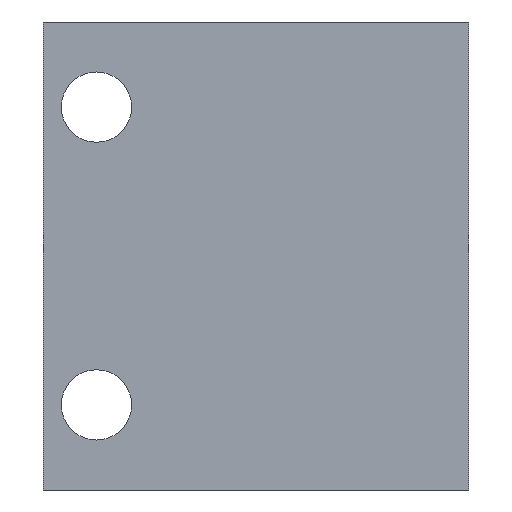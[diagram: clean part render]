
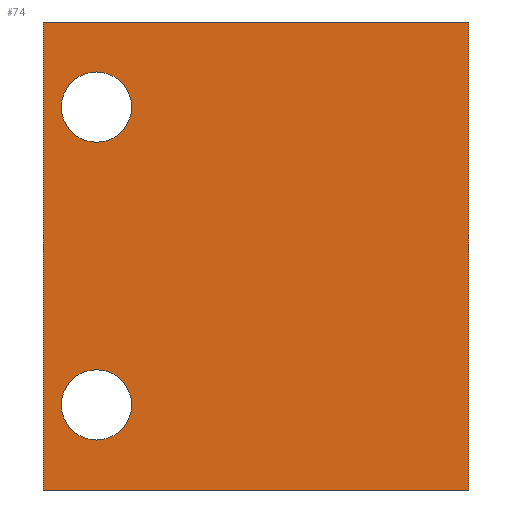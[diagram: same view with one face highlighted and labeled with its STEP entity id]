
A CAD part, left-side view. The second image highlights one B-rep face of the part: STEP entity #74.
In plain terms, the highlighted planar face has unit normal (-1, 0, 0).
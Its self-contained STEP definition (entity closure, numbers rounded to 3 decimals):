
#18 = ORIENTED_EDGE ( 'NONE', *, *, #208, .T. ) ;
#32 = ORIENTED_EDGE ( 'NONE', *, *, #319, .F. ) ;
#46 = EDGE_LOOP ( 'NONE', ( #225, #216 ) ) ;
#68 = EDGE_LOOP ( 'NONE', ( #18, #32, #214, #234 ) ) ;
#71 = EDGE_LOOP ( 'NONE', ( #228, #231 ) ) ;
#74 = ADVANCED_FACE ( 'NONE', ( #474, #222, #477 ), #423, .F. ) ;
#95 = LINE ( 'NONE', #439, #96 ) ;
#96 = VECTOR ( 'NONE', #430, 1000. ) ;
#99 = CIRCLE ( 'NONE', #187, 1.65 ) ;
#101 = CIRCLE ( 'NONE', #211, 1.65 ) ;
#110 = LINE ( 'NONE', #443, #111 ) ;
#111 = VECTOR ( 'NONE', #442, 1000. ) ;
#114 = CIRCLE ( 'NONE', #170, 1.65 ) ;
#116 = CIRCLE ( 'NONE', #203, 1.65 ) ;
#119 = LINE ( 'NONE', #428, #120 ) ;
#120 = VECTOR ( 'NONE', #425, 1000. ) ;
#170 = AXIS2_PLACEMENT_3D ( 'NONE', #463, #406, #454 ) ;
#172 = EDGE_CURVE ( 'NONE', #386, #375, #472, .T. ) ;
#187 = AXIS2_PLACEMENT_3D ( 'NONE', #447, #448, #464 ) ;
#189 = AXIS2_PLACEMENT_3D ( 'NONE', #377, #422, #421 ) ;
#203 = AXIS2_PLACEMENT_3D ( 'NONE', #455, #459, #404 ) ;
#208 = EDGE_CURVE ( 'NONE', #376, #396, #95, .T. ) ;
#209 = EDGE_CURVE ( 'NONE', #370, #385, #99, .T. ) ;
#211 = AXIS2_PLACEMENT_3D ( 'NONE', #469, #468, #465 ) ;
#212 = EDGE_CURVE ( 'NONE', #374, #395, #101, .T. ) ;
#214 = ORIENTED_EDGE ( 'NONE', *, *, #172, .F. ) ;
#216 = ORIENTED_EDGE ( 'NONE', *, *, #320, .F. ) ;
#222 = FACE_BOUND ( 'NONE', #71, .T. ) ;
#225 = ORIENTED_EDGE ( 'NONE', *, *, #209, .F. ) ;
#228 = ORIENTED_EDGE ( 'NONE', *, *, #212, .F. ) ;
#231 = ORIENTED_EDGE ( 'NONE', *, *, #321, .F. ) ;
#234 = ORIENTED_EDGE ( 'NONE', *, *, #324, .T. ) ;
#236 = CARTESIAN_POINT ( 'NONE',  ( 0., 0., 0. ) ) ;
#238 = CARTESIAN_POINT ( 'NONE',  ( 0., 17.5, 16.35 ) ) ;
#274 = CARTESIAN_POINT ( 'NONE',  ( 0., 17.5, 5.65 ) ) ;
#284 = CARTESIAN_POINT ( 'NONE',  ( 0., 20., 0. ) ) ;
#285 = CARTESIAN_POINT ( 'NONE',  ( 0., 0., 22. ) ) ;
#286 = CARTESIAN_POINT ( 'NONE',  ( 0., 17.5, 19.65 ) ) ;
#287 = CARTESIAN_POINT ( 'NONE',  ( 0., 17.5, 2.35 ) ) ;
#288 = CARTESIAN_POINT ( 'NONE',  ( 0., 20., 22. ) ) ;
#319 = EDGE_CURVE ( 'NONE', #375, #396, #110, .T. ) ;
#320 = EDGE_CURVE ( 'NONE', #385, #370, #114, .T. ) ;
#321 = EDGE_CURVE ( 'NONE', #395, #374, #116, .T. ) ;
#324 = EDGE_CURVE ( 'NONE', #386, #376, #119, .T. ) ;
#370 = VERTEX_POINT ( 'NONE', #274 ) ;
#374 = VERTEX_POINT ( 'NONE', #286 ) ;
#375 = VERTEX_POINT ( 'NONE', #285 ) ;
#376 = VERTEX_POINT ( 'NONE', #284 ) ;
#377 = CARTESIAN_POINT ( 'NONE',  ( 0., 20., 22. ) ) ;
#385 = VERTEX_POINT ( 'NONE', #287 ) ;
#386 = VERTEX_POINT ( 'NONE', #288 ) ;
#395 = VERTEX_POINT ( 'NONE', #238 ) ;
#396 = VERTEX_POINT ( 'NONE', #236 ) ;
#404 = DIRECTION ( 'NONE',  ( 0., 0., 1. ) ) ;
#406 = DIRECTION ( 'NONE',  ( -1., 0., 0. ) ) ;
#414 = CARTESIAN_POINT ( 'NONE',  ( 0., 20., 22. ) ) ;
#415 = DIRECTION ( 'NONE',  ( 0., -1., 0. ) ) ;
#421 = DIRECTION ( 'NONE',  ( 0., 1., 0. ) ) ;
#422 = DIRECTION ( 'NONE',  ( 1., 0., 0. ) ) ;
#423 = PLANE ( 'NONE',  #189 ) ;
#425 = DIRECTION ( 'NONE',  ( 0., 0., -1. ) ) ;
#428 = CARTESIAN_POINT ( 'NONE',  ( 0., 20., 22. ) ) ;
#430 = DIRECTION ( 'NONE',  ( 0., -1., 0. ) ) ;
#439 = CARTESIAN_POINT ( 'NONE',  ( 0., 20., 0. ) ) ;
#442 = DIRECTION ( 'NONE',  ( 0., 0., -1. ) ) ;
#443 = CARTESIAN_POINT ( 'NONE',  ( 0., 0., 22. ) ) ;
#447 = CARTESIAN_POINT ( 'NONE',  ( 0., 17.5, 4. ) ) ;
#448 = DIRECTION ( 'NONE',  ( -1., 0., 0. ) ) ;
#454 = DIRECTION ( 'NONE',  ( 0., 0., 1. ) ) ;
#455 = CARTESIAN_POINT ( 'NONE',  ( 0., 17.5, 18. ) ) ;
#459 = DIRECTION ( 'NONE',  ( -1., 0., 0. ) ) ;
#463 = CARTESIAN_POINT ( 'NONE',  ( 0., 17.5, 4. ) ) ;
#464 = DIRECTION ( 'NONE',  ( 0., 0., 1. ) ) ;
#465 = DIRECTION ( 'NONE',  ( 0., 0., 1. ) ) ;
#468 = DIRECTION ( 'NONE',  ( -1., 0., 0. ) ) ;
#469 = CARTESIAN_POINT ( 'NONE',  ( 0., 17.5, 18. ) ) ;
#471 = VECTOR ( 'NONE', #415, 1000. ) ;
#472 = LINE ( 'NONE', #414, #471 ) ;
#474 = FACE_BOUND ( 'NONE', #46, .T. ) ;
#477 = FACE_OUTER_BOUND ( 'NONE', #68, .T. ) ;
